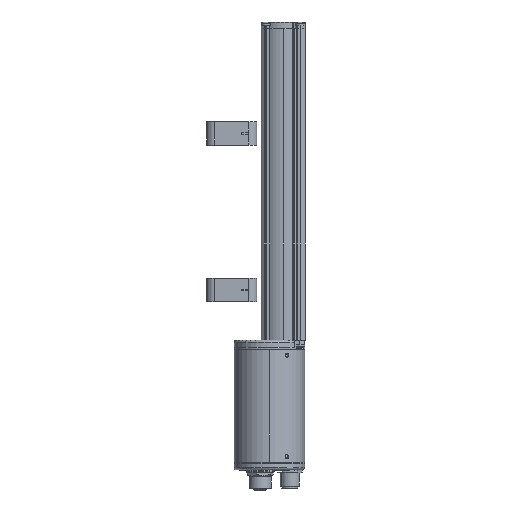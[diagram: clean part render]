
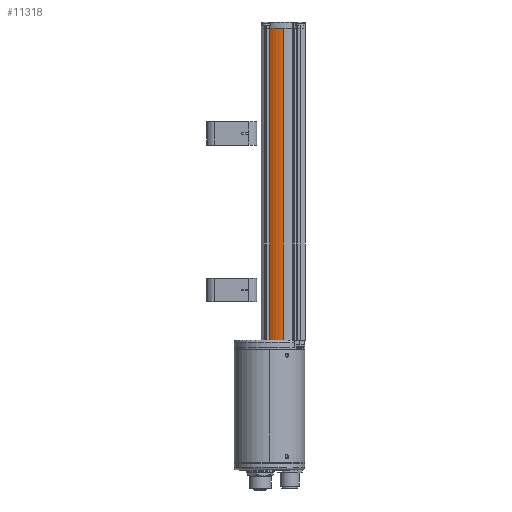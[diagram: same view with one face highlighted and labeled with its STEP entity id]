
A CAD part, left-side view. The second image highlights one B-rep face of the part: STEP entity #11318.
In plain terms, the highlighted cylindrical face has radius 15 mm (diameter 30 mm), a partial arc.
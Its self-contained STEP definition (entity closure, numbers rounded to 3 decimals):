
#407 = DIRECTION ( 'NONE',  ( 0., 0., -1. ) ) ;
#450 = ORIENTED_EDGE ( 'NONE', *, *, #33878, .T. ) ;
#2168 = ORIENTED_EDGE ( 'NONE', *, *, #33188, .T. ) ;
#2327 = AXIS2_PLACEMENT_3D ( 'NONE', #26737, #28995, #14471 ) ;
#2712 = ORIENTED_EDGE ( 'NONE', *, *, #8799, .F. ) ;
#3542 = CYLINDRICAL_SURFACE ( 'NONE', #2327, 15. ) ;
#4660 = CARTESIAN_POINT ( 'NONE',  ( -15., 0., 199. ) ) ;
#5952 = CARTESIAN_POINT ( 'NONE',  ( -12.3, 8.585, 0. ) ) ;
#6274 = LINE ( 'NONE', #26073, #25204 ) ;
#6351 = CARTESIAN_POINT ( 'NONE',  ( -12.3, 8.585, 199. ) ) ;
#8799 = EDGE_CURVE ( 'NONE', #10188, #30424, #18608, .T. ) ;
#9257 = AXIS2_PLACEMENT_3D ( 'NONE', #10077, #35723, #18756 ) ;
#10077 = CARTESIAN_POINT ( 'NONE',  ( 0., 0., 0. ) ) ;
#10188 = VERTEX_POINT ( 'NONE', #30622 ) ;
#11318 = ADVANCED_FACE ( 'NONE', ( #32541 ), #3542, .T. ) ;
#14471 = DIRECTION ( 'NONE',  ( -1., 0., 0. ) ) ;
#14834 = DIRECTION ( 'NONE',  ( 0., 0., 1. ) ) ;
#15271 = CIRCLE ( 'NONE', #9257, 15. ) ;
#17942 = AXIS2_PLACEMENT_3D ( 'NONE', #35197, #14834, #26347 ) ;
#18608 = LINE ( 'NONE', #4660, #23795 ) ;
#18756 = DIRECTION ( 'NONE',  ( 1., 0., 0. ) ) ;
#23056 = EDGE_CURVE ( 'NONE', #26534, #10188, #33571, .T. ) ;
#23795 = VECTOR ( 'NONE', #35586, 1000. ) ;
#25204 = VECTOR ( 'NONE', #407, 1000. ) ;
#26073 = CARTESIAN_POINT ( 'NONE',  ( -12.3, 8.585, 199. ) ) ;
#26347 = DIRECTION ( 'NONE',  ( 1., 0., 0. ) ) ;
#26468 = VERTEX_POINT ( 'NONE', #5952 ) ;
#26534 = VERTEX_POINT ( 'NONE', #6351 ) ;
#26737 = CARTESIAN_POINT ( 'NONE',  ( 0., 0., 199. ) ) ;
#28749 = ORIENTED_EDGE ( 'NONE', *, *, #23056, .F. ) ;
#28995 = DIRECTION ( 'NONE',  ( 0., 0., -1. ) ) ;
#30424 = VERTEX_POINT ( 'NONE', #32946 ) ;
#30622 = CARTESIAN_POINT ( 'NONE',  ( -15., 0., 199. ) ) ;
#32541 = FACE_OUTER_BOUND ( 'NONE', #34875, .T. ) ;
#32946 = CARTESIAN_POINT ( 'NONE',  ( -15., 0., 0. ) ) ;
#33188 = EDGE_CURVE ( 'NONE', #26468, #30424, #15271, .T. ) ;
#33571 = CIRCLE ( 'NONE', #17942, 15. ) ;
#33878 = EDGE_CURVE ( 'NONE', #26534, #26468, #6274, .T. ) ;
#34875 = EDGE_LOOP ( 'NONE', ( #2712, #28749, #450, #2168 ) ) ;
#35197 = CARTESIAN_POINT ( 'NONE',  ( 0., 0., 199. ) ) ;
#35586 = DIRECTION ( 'NONE',  ( 0., 0., -1. ) ) ;
#35723 = DIRECTION ( 'NONE',  ( 0., 0., 1. ) ) ;
